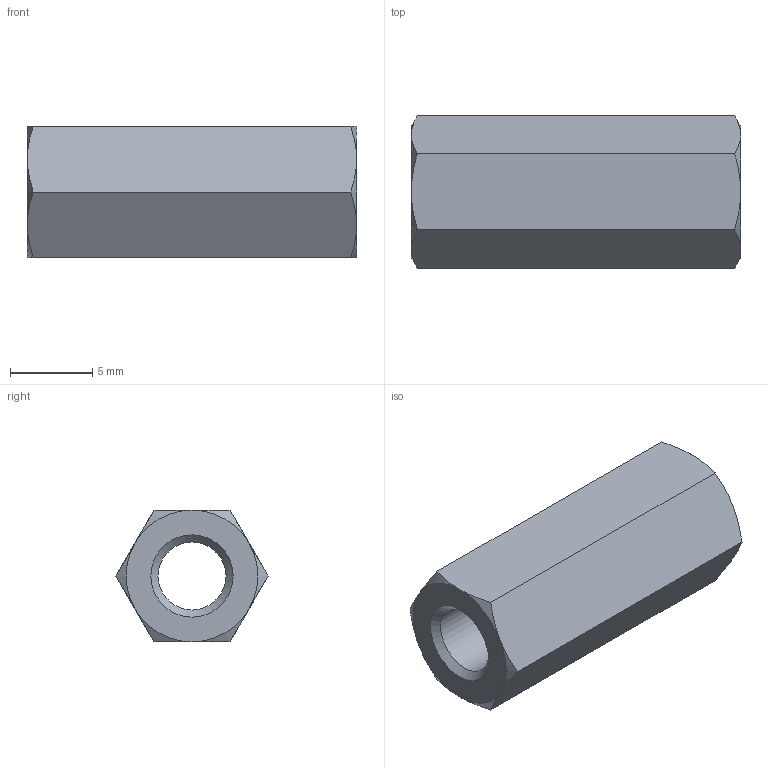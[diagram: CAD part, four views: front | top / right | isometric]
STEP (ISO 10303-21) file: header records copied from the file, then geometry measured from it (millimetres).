
FILE_DESCRIPTION( ( 'STEP AP203' ), '1' );
FILE_NAME( 'C:/Temp/Ganter_Step_05_03_2020/data/3_2/gn6220/gn6220_ni/Stainless Steel-Spacer GN 6220-NI-M5-20-A.stp', '2020-03-13T05:43:00', ( 'License CC BY-ND 4.0' ), ( 'CADENAS' ), ' ', 'PARTsolutions', ' ' );
FILE_SCHEMA( ( 'CONFIG_CONTROL_DESIGN' ) );
Length unit declared in the file: millimetre
Products named in the file (1): _Stainless Steel-Spacer GN 6220-NI-M5-20-A
Bounding box: 20 x 9.24 x 8 mm (x, y, z)
Volume: 836.4 mm3; surface area: 886.7 mm2
Topology: 1 solids, 1 shells, 23 faces, 49 edges, 28 vertices
Faces by surface type: cone 14, plane 8, cylinder 1
Full cylindrical faces by diameter (mm): 4.134 x1
Entity records: 696 total; most frequent: CARTESIAN_POINT 202, ORIENTED_EDGE 92, DIRECTION 86, EDGE_CURVE 46, AXIS2_PLACEMENT_3D 40, EDGE_LOOP 28, VERTEX_POINT 28, FACE_OUTER_BOUND 24
